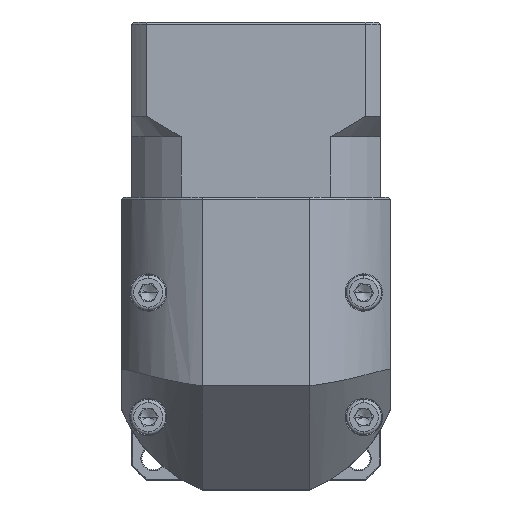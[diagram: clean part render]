
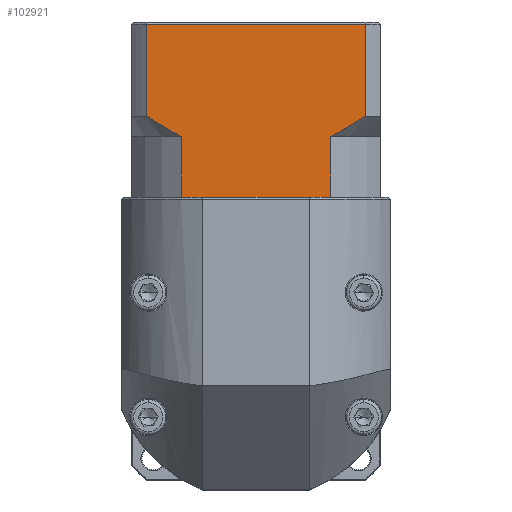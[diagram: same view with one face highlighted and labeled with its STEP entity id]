
A CAD part, top view. The second image highlights one B-rep face of the part: STEP entity #102921.
In plain terms, the highlighted planar face has unit normal (0, 0, 1).
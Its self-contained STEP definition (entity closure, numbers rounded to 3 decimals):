
#112 = CARTESIAN_POINT ( 'NONE',  ( -86.062, 83.865, 62.797 ) ) ;
#4831 = CARTESIAN_POINT ( 'NONE',  ( -88.801, 80.638, 62.797 ) ) ;
#7111 = ORIENTED_EDGE ( 'NONE', *, *, #27764, .F. ) ;
#7630 = CARTESIAN_POINT ( 'NONE',  ( -44.316, 80.638, 62.797 ) ) ;
#9367 = ORIENTED_EDGE ( 'NONE', *, *, #99536, .T. ) ;
#10280 = ORIENTED_EDGE ( 'NONE', *, *, #36531, .F. ) ;
#14363 = CARTESIAN_POINT ( 'NONE',  ( -80.371, 80.638, 62.797 ) ) ;
#14827 = CARTESIAN_POINT ( 'NONE',  ( -44.316, 80.638, 62.797 ) ) ;
#16148 = VECTOR ( 'NONE', #85678, 1000. ) ;
#16248 = ORIENTED_EDGE ( 'NONE', *, *, #86517, .T. ) ;
#16266 = VECTOR ( 'NONE', #30311, 1000. ) ;
#18128 = CARTESIAN_POINT ( 'NONE',  ( -79.38, 66.138, 62.797 ) ) ;
#18844 = DIRECTION ( 'NONE',  ( 1., 0., 0. ) ) ;
#18980 = DIRECTION ( 'NONE',  ( -1., 0., 0. ) ) ;
#19898 = CARTESIAN_POINT ( 'NONE',  ( -35.886, 80.638, 62.797 ) ) ;
#22076 = LINE ( 'NONE', #67068, #54109 ) ;
#22738 = VECTOR ( 'NONE', #61718, 1000. ) ;
#23092 = AXIS2_PLACEMENT_3D ( 'NONE', #93888, #52765, #60195 ) ;
#24705 = VERTEX_POINT ( 'NONE', #18128 ) ;
#25433 = CARTESIAN_POINT ( 'NONE',  ( -88.801, 85.638, 62.797 ) ) ;
#25441 = DIRECTION ( 'NONE',  ( 1., 0., 0. ) ) ;
#27764 = EDGE_CURVE ( 'NONE', #68676, #110716, #110734, .T. ) ;
#29218 = ORIENTED_EDGE ( 'NONE', *, *, #93062, .T. ) ;
#30311 = DIRECTION ( 'NONE',  ( 0., -1., 0. ) ) ;
#31148 = CARTESIAN_POINT ( 'NONE',  ( -37.249, 84.736, 62.797 ) ) ;
#32270 = CARTESIAN_POINT ( 'NONE',  ( -44.316, 80.638, 62.797 ) ) ;
#33177 = EDGE_CURVE ( 'NONE', #68676, #106143, #88402, .T. ) ;
#35050 = CARTESIAN_POINT ( 'NONE',  ( -81.823, 81.386, 62.797 ) ) ;
#36531 = EDGE_CURVE ( 'NONE', #105414, #106143, #67898, .T. ) ;
#37654 = DIRECTION ( 'NONE',  ( 0., 1., 0. ) ) ;
#41248 = CARTESIAN_POINT ( 'NONE',  ( -42.859, 81.388, 62.797 ) ) ;
#41256 = VERTEX_POINT ( 'NONE', #44198 ) ;
#41680 = B_SPLINE_CURVE_WITH_KNOTS ( 'NONE', 3,
 ( #14827, #41248, #49484, #84840, #31148, #67015 ),
 .UNSPECIFIED., .F., .F.,
 ( 4, 2, 4 ),
 ( 0.1, 0.104, 0.109 ),
 .UNSPECIFIED. ) ;
#43253 = CARTESIAN_POINT ( 'NONE',  ( -87.441, 84.738, 62.797 ) ) ;
#44198 = CARTESIAN_POINT ( 'NONE',  ( -44.316, 66.138, 62.797 ) ) ;
#44704 = CARTESIAN_POINT ( 'NONE',  ( -88.801, 85.638, 62.797 ) ) ;
#46177 = VECTOR ( 'NONE', #18844, 1000. ) ;
#46322 = LINE ( 'NONE', #7630, #22738 ) ;
#48585 = CARTESIAN_POINT ( 'NONE',  ( -35.886, 85.638, 62.797 ) ) ;
#49484 = CARTESIAN_POINT ( 'NONE',  ( -41.434, 82.188, 62.797 ) ) ;
#52481 = EDGE_CURVE ( 'NONE', #66488, #41256, #46322, .T. ) ;
#52765 = DIRECTION ( 'NONE',  ( 0., 0., -1. ) ) ;
#54109 = VECTOR ( 'NONE', #25441, 1000. ) ;
#55207 = EDGE_CURVE ( 'NONE', #69572, #92365, #72149, .T. ) ;
#56389 = EDGE_CURVE ( 'NONE', #63813, #41256, #85744, .T. ) ;
#58239 = PLANE ( 'NONE',  #23092 ) ;
#58828 = B_SPLINE_CURVE_WITH_KNOTS ( 'NONE', 3,
 ( #25433, #43253, #112, #97210, #35050, #79730 ),
 .UNSPECIFIED., .F., .F.,
 ( 4, 2, 4 ),
 ( 0.052, 0.057, 0.062 ),
 .UNSPECIFIED. ) ;
#60195 = DIRECTION ( 'NONE',  ( 0., 1., 0. ) ) ;
#61718 = DIRECTION ( 'NONE',  ( 0., -1., 0. ) ) ;
#62313 = VECTOR ( 'NONE', #86804, 1000. ) ;
#63813 = VERTEX_POINT ( 'NONE', #65035 ) ;
#65035 = CARTESIAN_POINT ( 'NONE',  ( -45.307, 66.138, 62.797 ) ) ;
#66159 = VECTOR ( 'NONE', #18980, 1000. ) ;
#66488 = VERTEX_POINT ( 'NONE', #32270 ) ;
#67015 = CARTESIAN_POINT ( 'NONE',  ( -35.886, 85.638, 62.797 ) ) ;
#67068 = CARTESIAN_POINT ( 'NONE',  ( -92.343, 66.138, 62.797 ) ) ;
#67898 = LINE ( 'NONE', #4831, #62313 ) ;
#68676 = VERTEX_POINT ( 'NONE', #91636 ) ;
#69116 = ORIENTED_EDGE ( 'NONE', *, *, #33177, .T. ) ;
#69572 = VERTEX_POINT ( 'NONE', #113579 ) ;
#71465 = CARTESIAN_POINT ( 'NONE',  ( -92.343, 107.838, 62.797 ) ) ;
#71905 = CARTESIAN_POINT ( 'NONE',  ( -80.371, 80.638, 62.797 ) ) ;
#72149 = LINE ( 'NONE', #71905, #113739 ) ;
#73317 = EDGE_CURVE ( 'NONE', #24705, #63813, #85104, .T. ) ;
#79730 = CARTESIAN_POINT ( 'NONE',  ( -80.371, 80.638, 62.797 ) ) ;
#83836 = FACE_OUTER_BOUND ( 'NONE', #102316, .T. ) ;
#84840 = CARTESIAN_POINT ( 'NONE',  ( -38.628, 83.862, 62.797 ) ) ;
#85104 = LINE ( 'NONE', #89157, #46177 ) ;
#85678 = DIRECTION ( 'NONE',  ( 1., 0., 0. ) ) ;
#85744 = LINE ( 'NONE', #104661, #16148 ) ;
#86517 = EDGE_CURVE ( 'NONE', #66488, #110716, #41680, .T. ) ;
#86804 = DIRECTION ( 'NONE',  ( 0., 1., 0. ) ) ;
#88402 = LINE ( 'NONE', #71465, #66159 ) ;
#89157 = CARTESIAN_POINT ( 'NONE',  ( -92.343, 66.138, 62.797 ) ) ;
#90076 = ORIENTED_EDGE ( 'NONE', *, *, #56389, .T. ) ;
#91636 = CARTESIAN_POINT ( 'NONE',  ( -35.886, 107.838, 62.797 ) ) ;
#91694 = ORIENTED_EDGE ( 'NONE', *, *, #52481, .F. ) ;
#91777 = ORIENTED_EDGE ( 'NONE', *, *, #73317, .T. ) ;
#92365 = VERTEX_POINT ( 'NONE', #14363 ) ;
#93062 = EDGE_CURVE ( 'NONE', #69572, #24705, #22076, .T. ) ;
#93888 = CARTESIAN_POINT ( 'NONE',  ( -92.343, 108.338, 62.797 ) ) ;
#97210 = CARTESIAN_POINT ( 'NONE',  ( -83.255, 82.189, 62.797 ) ) ;
#99536 = EDGE_CURVE ( 'NONE', #105414, #92365, #58828, .T. ) ;
#102316 = EDGE_LOOP ( 'NONE', ( #7111, #69116, #10280, #9367, #113983, #29218, #91777, #90076, #91694, #16248 ) ) ;
#102921 = ADVANCED_FACE ( 'NONE', ( #83836 ), #58239, .F. ) ;
#104661 = CARTESIAN_POINT ( 'NONE',  ( -92.343, 66.138, 62.797 ) ) ;
#105414 = VERTEX_POINT ( 'NONE', #44704 ) ;
#106143 = VERTEX_POINT ( 'NONE', #112007 ) ;
#110716 = VERTEX_POINT ( 'NONE', #48585 ) ;
#110734 = LINE ( 'NONE', #19898, #16266 ) ;
#112007 = CARTESIAN_POINT ( 'NONE',  ( -88.801, 107.838, 62.797 ) ) ;
#113579 = CARTESIAN_POINT ( 'NONE',  ( -80.371, 66.138, 62.797 ) ) ;
#113739 = VECTOR ( 'NONE', #37654, 1000. ) ;
#113983 = ORIENTED_EDGE ( 'NONE', *, *, #55207, .F. ) ;
